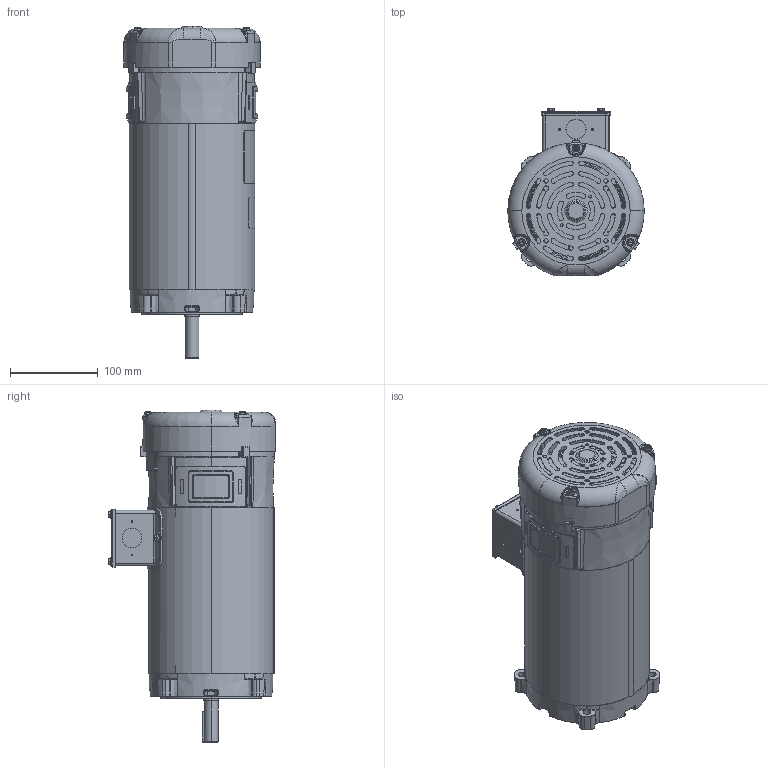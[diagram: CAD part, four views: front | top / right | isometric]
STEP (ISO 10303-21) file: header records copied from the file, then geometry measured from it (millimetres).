
FILE_DESCRIPTION (( 'STEP AP203' ), '1' );
FILE_NAME ('612-0077-DC116_Rev01.STEP', '2018-10-09T13:05:18', ( '' ), ( '' ), 'SwSTEP 2.0', 'SolidWorks 2015', '' );
FILE_SCHEMA (( 'CONFIG_CONTROL_DESIGN' ));
Length unit declared in the file: inch
Products named in the file (1): 612-0077-DC116_Rev01
Bounding box: 155.7 x 191.13 x 378.98 mm (x, y, z)
Volume: 1236993.5 mm3; surface area: 574201.4 mm2
Topology: 41 solids, 41 shells, 4273 faces, 10394 edges, 6160 vertices
Faces by surface type: cylinder 1161, plane 1096, bspline 943, torus 521, cone 478, sphere 74
Entity records: 166004 total; most frequent: CARTESIAN_POINT 72658, ORIENTED_EDGE 20430, DIRECTION 18510, EDGE_CURVE 10215, AXIS2_PLACEMENT_3D 7569, VERTEX_POINT 6154, EDGE_LOOP 4571, FACE_OUTER_BOUND 4273
